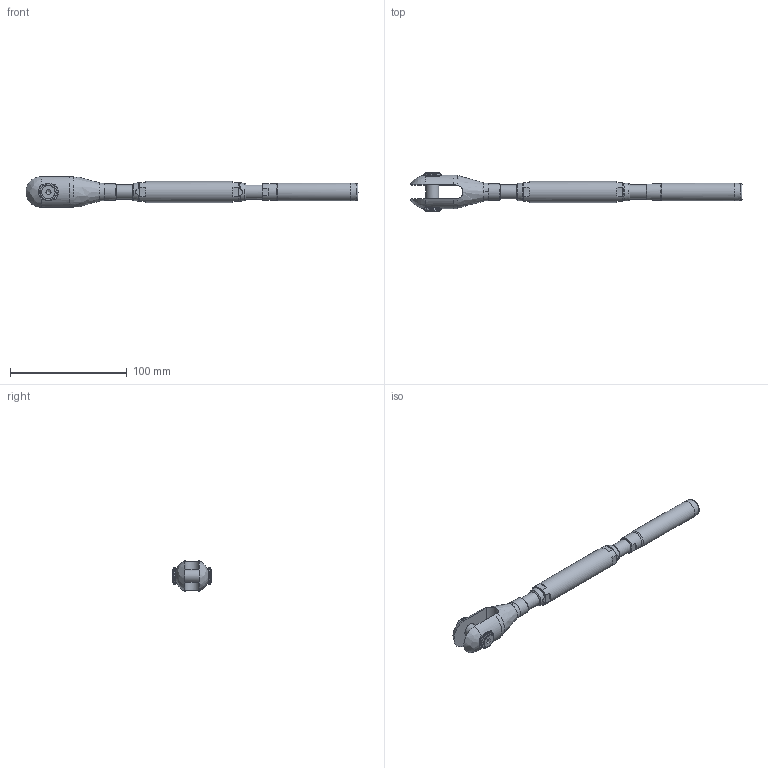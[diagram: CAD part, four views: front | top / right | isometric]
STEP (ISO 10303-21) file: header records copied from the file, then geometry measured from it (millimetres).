
FILE_DESCRIPTION(/* description */ (''),/* implementation_level */ '2;1');
FILE_NAME(/* name */ 'TBC 08_42CrMo4',/* time_stamp */ '2023-05-23T18:16:33+02:00',/* author */ (''),/* organization */ (''),/* preprocessor_version */ 'ST-DEVELOPER v16.5',/* originating_system */ 'Rhino 7.22',/* authorisation */ '');
FILE_SCHEMA (('CONFIG_CONTROL_DESIGN'));
Length unit declared in the file: millimetre
Products named in the file (1): Document
Bounding box: 284.16 x 33.9 x 26.4 mm (x, y, z)
Volume: 59570.4 mm3; surface area: 28561.3 mm2
Topology: 10 solids, 10 shells, 141 faces, 383 edges, 264 vertices
Faces by surface type: plane 65, bspline 41, cylinder 35
Full cylindrical faces by diameter (mm): 4.917 x2, 6 x2, 6.5 x2, 10.106 x4, 11 x1, 11.34 x2, 12 x4, 14.5 x2, 15 x3, 15.3 x1, 18 x1
Entity records: 5858 total; most frequent: CARTESIAN_POINT 3430, ORIENTED_EDGE 758, EDGE_CURVE 379, VERTEX_POINT 264, EDGE_LOOP 161, B_SPLINE_CURVE_WITH_KNOTS 154, ADVANCED_FACE 141, FACE_OUTER_BOUND 141
